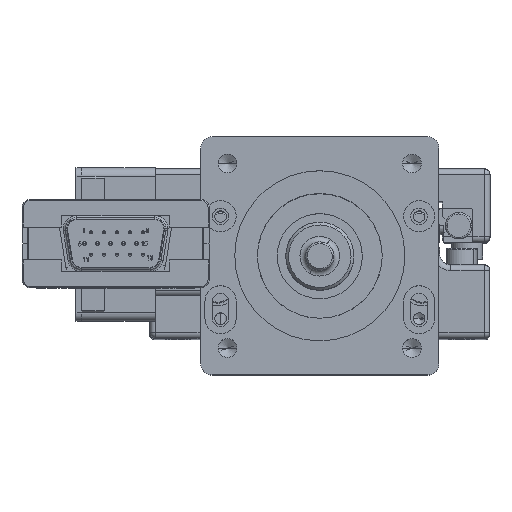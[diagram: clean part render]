
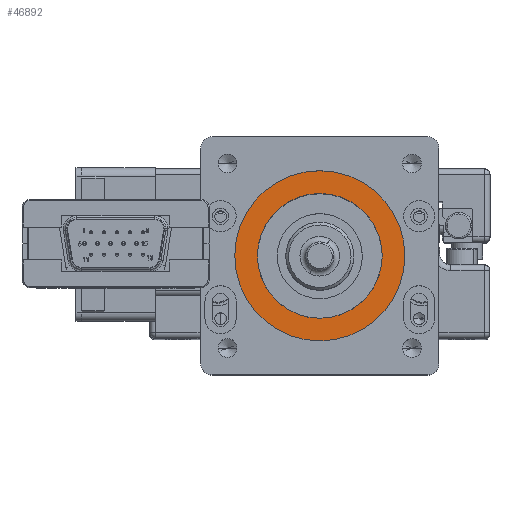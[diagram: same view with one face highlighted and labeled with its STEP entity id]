
A CAD part, top view. The second image highlights one B-rep face of the part: STEP entity #46892.
In plain terms, the highlighted planar face has unit normal (0, 0, 1).
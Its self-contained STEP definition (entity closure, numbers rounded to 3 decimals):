
#2342 = CARTESIAN_POINT ( 'NONE',  ( 11., 0., 36.5 ) ) ;
#2596 = ORIENTED_EDGE ( 'NONE', *, *, #63390, .T. ) ;
#4110 = DIRECTION ( 'NONE',  ( 1., 0., 0. ) ) ;
#5273 = EDGE_LOOP ( 'NONE', ( #12557, #2596 ) ) ;
#5304 = CARTESIAN_POINT ( 'NONE',  ( 0., 0., 36.5 ) ) ;
#5731 = VERTEX_POINT ( 'NONE', #46076 ) ;
#6511 = CIRCLE ( 'NONE', #26392, 11. ) ;
#6837 = CARTESIAN_POINT ( 'NONE',  ( 15., 0., 36.5 ) ) ;
#7089 = DIRECTION ( 'NONE',  ( 1., 0., 0. ) ) ;
#9049 = DIRECTION ( 'NONE',  ( 0., 0., 1. ) ) ;
#10708 = DIRECTION ( 'NONE',  ( 0., 0., 1. ) ) ;
#11097 = DIRECTION ( 'NONE',  ( 1., 0., 0. ) ) ;
#11740 = AXIS2_PLACEMENT_3D ( 'NONE', #33568, #26958, #71980 ) ;
#11881 = EDGE_CURVE ( 'NONE', #5731, #21419, #29698, .T. ) ;
#12557 = ORIENTED_EDGE ( 'NONE', *, *, #19874, .T. ) ;
#13046 = VERTEX_POINT ( 'NONE', #2342 ) ;
#19874 = EDGE_CURVE ( 'NONE', #13046, #34418, #6511, .T. ) ;
#21419 = VERTEX_POINT ( 'NONE', #6837 ) ;
#21469 = CARTESIAN_POINT ( 'NONE',  ( 0., 0., 36.5 ) ) ;
#26392 = AXIS2_PLACEMENT_3D ( 'NONE', #5304, #55751, #11097 ) ;
#26958 = DIRECTION ( 'NONE',  ( 0., 0., -1. ) ) ;
#27659 = CIRCLE ( 'NONE', #11740, 11. ) ;
#29698 = CIRCLE ( 'NONE', #79869, 15. ) ;
#33391 = EDGE_LOOP ( 'NONE', ( #53052, #35266 ) ) ;
#33568 = CARTESIAN_POINT ( 'NONE',  ( 0., 0., 36.5 ) ) ;
#34418 = VERTEX_POINT ( 'NONE', #58186 ) ;
#35124 = CARTESIAN_POINT ( 'NONE',  ( 0., 0., 36.5 ) ) ;
#35266 = ORIENTED_EDGE ( 'NONE', *, *, #11881, .T. ) ;
#37597 = CARTESIAN_POINT ( 'NONE',  ( 0., 0., 36.5 ) ) ;
#39697 = DIRECTION ( 'NONE',  ( 0., 0., 1. ) ) ;
#42928 = AXIS2_PLACEMENT_3D ( 'NONE', #21469, #9049, #7089 ) ;
#46054 = AXIS2_PLACEMENT_3D ( 'NONE', #37597, #10708, #4110 ) ;
#46076 = CARTESIAN_POINT ( 'NONE',  ( -15., 0., 36.5 ) ) ;
#46892 = ADVANCED_FACE ( 'NONE', ( #62391, #67367 ), #54558, .T. ) ;
#52163 = CIRCLE ( 'NONE', #42928, 15. ) ;
#53052 = ORIENTED_EDGE ( 'NONE', *, *, #77723, .T. ) ;
#54558 = PLANE ( 'NONE',  #46054 ) ;
#55751 = DIRECTION ( 'NONE',  ( 0., 0., -1. ) ) ;
#58186 = CARTESIAN_POINT ( 'NONE',  ( -11., 0., 36.5 ) ) ;
#59915 = DIRECTION ( 'NONE',  ( 1., 0., 0. ) ) ;
#62391 = FACE_OUTER_BOUND ( 'NONE', #33391, .T. ) ;
#63390 = EDGE_CURVE ( 'NONE', #34418, #13046, #27659, .T. ) ;
#67367 = FACE_BOUND ( 'NONE', #5273, .T. ) ;
#71980 = DIRECTION ( 'NONE',  ( 1., 0., 0. ) ) ;
#77723 = EDGE_CURVE ( 'NONE', #21419, #5731, #52163, .T. ) ;
#79869 = AXIS2_PLACEMENT_3D ( 'NONE', #35124, #39697, #59915 ) ;
